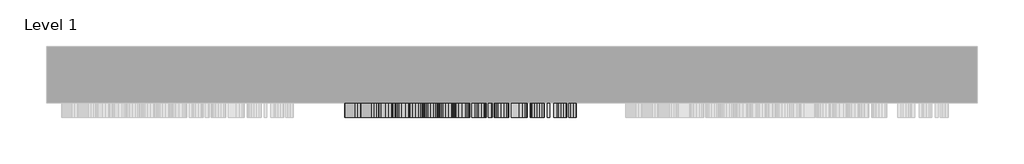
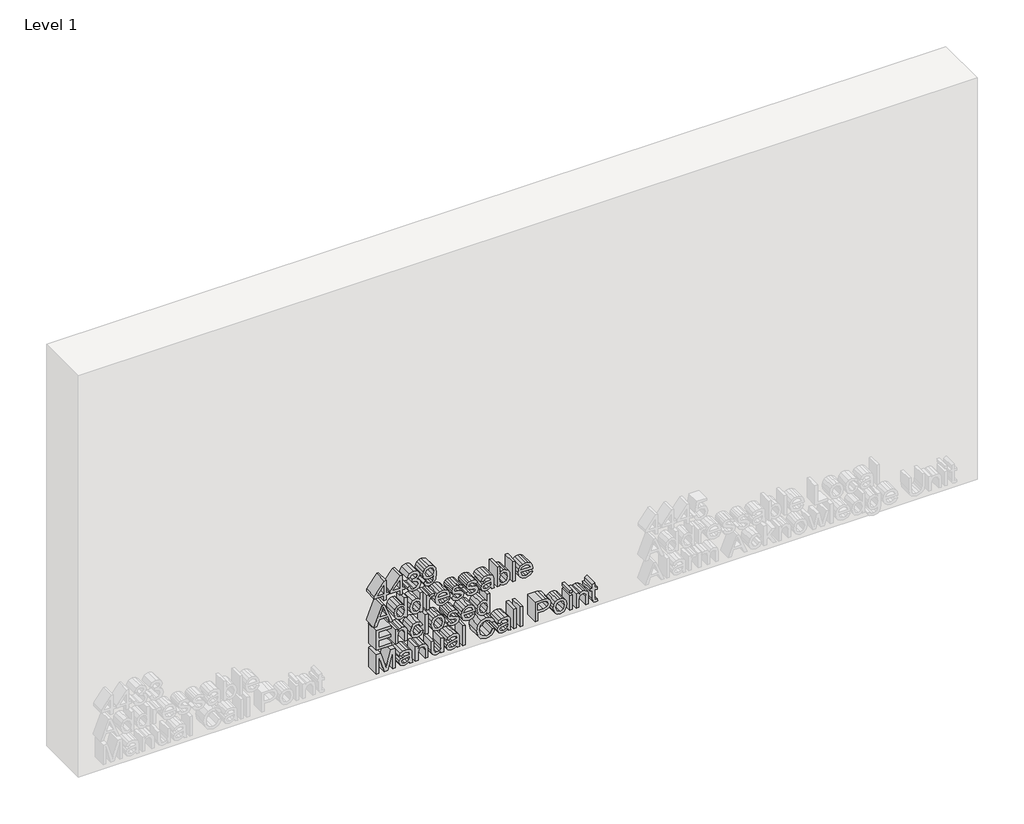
# One storey, part 2 of 3: 1 proxy.
"""IFC4 building model written with IfcOpenShell, lengths in millimetres."""

from ifc_helpers import new_model, si_unit, frame, origin, place, context, project, spatial, polyline, outline, extrude, element, save

model = new_model("IFC4")

# Units and contexts
model_context = context("Model", 3, world=origin())
ifc_project = project(units=[si_unit("LENGTHUNIT", "METRE", prefix="MILLI")], contexts=[model_context])

# Site, building, storey
site = spatial("IfcSite", under=ifc_project)
building = spatial("IfcBuilding", under=site)
storey = spatial("IfcBuildingStorey", under=building, Name="Level 1", Elevation=0.0)

# Proxy
placement = place(None, origin())
element("IfcBuildingElementProxy", 1, Name="75 mm Arial", ObjectType="75 mm Arial", at=placement, inside=storey, context=model_context, shape_type="SweptSolid", body=[
    extrude(outline(polyline([(331.1805104, -3256.778732), (331.1805104, -3247.3609529), (348.8388462, -3247.3609529), (348.8388462, -3237.9431738), (358.2566253, -3237.9431738), (358.2566253, -3247.3609529), (405.3455207, -3247.3609529), (405.3455207, -3254.4242872), (358.2566253, -3290.9181811), (348.8388462, -3290.9181811), (348.8388462, -3256.778732), (331.1805104, -3256.778732)]), holes=[polyline([(358.2566253, -3256.778732), (358.2566253, -3279.3298983), (387.3560911, -3256.778732), (358.2566253, -3256.778732)])]), frame((0.0, 3097.8550077, 0.0), z_axis=(0.0, 1.0, 0.0), x_axis=(0.0, 0.0, 1.0)), (0.0, 0.0, 1.0), 50.0),
    extrude(outline(polyline([(331.1805104, -3199.0948352), (331.1805104, -3189.6770561), (348.8388462, -3189.6770561), (348.8388462, -3180.259277), (358.2566253, -3180.259277), (358.2566253, -3189.6770561), (405.3455207, -3189.6770561), (405.3455207, -3196.7403904), (358.2566253, -3233.2342843), (348.8388462, -3233.2342843), (348.8388462, -3199.0948352), (331.1805104, -3199.0948352)]), holes=[polyline([(358.2566253, -3199.0948352), (358.2566253, -3221.6460015), (387.3560911, -3199.0948352), (358.2566253, -3199.0948352)])]), frame((0.0, 3097.8550077, 0.0), z_axis=(0.0, 1.0, 0.0), x_axis=(0.0, 0.0, 1.0)), (0.0, 0.0, 1.0), 50.0),
    extrude(outline(polyline([(351.193291, -3172.0187203), (342.6814213, -3169.6872682), (335.9077941, -3164.5323217), (331.4794145, -3157.1194995), (330.003288, -3148.0144201), (331.7323334, -3137.948249), (336.9194696, -3129.7858673), (344.5898091, -3124.3780019), (353.7684649, -3122.5753802), (366.0189354, -3126.1806237), (372.4568703, -3136.4445314), (378.6924701, -3128.7190095), (387.3744852, -3126.1070473), (396.8750377, -3128.8569652), (403.938372, -3136.8032163), (406.522743, -3148.1615729), (401.2804246, -3163.1343701), (386.5099625, -3170.8414979), (385.3327401, -3161.4237188), (394.161908, -3156.8067998), (397.104964, -3147.8304791), (394.1894991, -3138.964523), (386.8226622, -3135.5248264), (378.5085291, -3140.2705041), (375.914961, -3152.4657923), (366.497182, -3153.5142559), (367.5272515, -3146.9107741), (363.6736876, -3136.2054081), (353.9340118, -3131.9931592), (343.5965278, -3136.2421963), (339.4210671, -3147.6833263), (342.4560936, -3157.404608), (352.3705133, -3162.6009412), (351.193291, -3172.0187203)])), frame((0.0, 3097.8550077, 0.0), z_axis=(0.0, 1.0, 0.0), x_axis=(0.0, 0.0, 1.0)), (0.0, 0.0, 1.0), 50.0),
    extrude(outline(polyline([(350.0160686, -3113.1576011), (335.2548035, -3106.4069665), (330.003288, -3091.93081), (334.4546602, -3077.3902741), (347.4133035, -3068.0368744), (370.2863665, -3064.8914833), (391.3660048, -3068.0460714), (402.5864057, -3077.2799095), (406.522743, -3090.6984053), (404.7982962, -3099.998922), (399.6249556, -3107.5933859), (391.6235222, -3112.6494641), (381.4147969, -3114.3348235), (371.5325668, -3112.727639), (363.7748552, -3107.9060856), (358.753266, -3100.7576786), (357.0794029, -3092.1699333), (359.8201238, -3081.8416462), (366.9570345, -3074.3092624), (365.1176245, -3074.2540801), (354.1915292, -3075.6152435), (346.0061548, -3078.6962552), (341.2144918, -3083.8649972), (339.4210671, -3091.4893516), (342.2077732, -3099.5091791), (351.193291, -3103.739822), (350.0160686, -3113.1576011)]), holes=[polyline([(381.6355261, -3074.3092624), (370.5162928, -3078.5674965), (366.497182, -3089.4292124), (370.5162928, -3100.7415837), (380.9549444, -3104.9170444), (392.6076066, -3100.5024604), (397.104964, -3089.171695), (392.9295033, -3078.3743584), (381.6355261, -3074.3092624)])]), frame((0.0, 3097.8550077, 0.0), z_axis=(0.0, 1.0, 0.0), x_axis=(0.0, 0.0, 1.0)), (0.0, 0.0, 1.0), 50.0),
    extrude(outline(polyline([(239.699397, -3292.6288324), (239.699397, -3282.6776245), (263.2438447, -3274.0691858), (263.2438447, -3243.0383395), (239.699397, -3234.4115067), (239.699397, -3224.4602987), (315.0416297, -3254.5346518), (315.0416297, -3262.5544793), (239.699397, -3292.6288324)]), holes=[polyline([(272.6616238, -3270.611095), (292.803163, -3263.235061), (305.6238506, -3258.5445656), (291.1844823, -3253.2654589), (272.6616238, -3246.4780361), (272.6616238, -3270.611095)])]), frame((0.0, 3097.8550077, 0.0), z_axis=(0.0, 1.0, 0.0), x_axis=(0.0, 0.0, 1.0)), (0.0, 0.0, 1.0), 50.0),
    extrude(outline(polyline([(239.699397, -3181.4364994), (239.699397, -3172.0187203), (315.0416297, -3172.0187203), (315.0416297, -3181.4364994), (286.9722334, -3181.4364994), (293.6400946, -3187.635311), (296.2060715, -3196.3173261), (292.619222, -3208.3378703), (282.3001321, -3216.4128801), (267.3089408, -3219.1076157), (252.3269465, -3216.1829538), (242.1642064, -3207.9423971), (238.5221747, -3196.2805379), (241.0375678, -3187.6675007), (248.5837472, -3181.4364994), (239.699397, -3181.4364994)]), holes=[polyline([(267.345729, -3209.6898366), (282.106994, -3205.7167111), (286.7882924, -3195.8022913), (281.913856, -3185.5843689), (266.6283591, -3181.4364994), (252.5476757, -3185.5107925), (247.9399537, -3195.4160152), (252.7684049, -3205.4407996), (267.345729, -3209.6898366)])]), frame((0.0, 3097.8550077, 0.0), z_axis=(0.0, 1.0, 0.0), x_axis=(0.0, 0.0, 1.0)), (0.0, 0.0, 1.0), 50.0),
    extrude(outline(polyline([(239.699397, -3123.7526025), (239.699397, -3114.3348235), (315.0416297, -3114.3348235), (315.0416297, -3123.7526025), (286.9722334, -3123.7526025), (293.6400946, -3129.9514142), (296.2060715, -3138.6334292), (292.619222, -3150.6539734), (282.3001321, -3158.7289832), (267.3089408, -3161.4237188), (252.3269465, -3158.499057), (242.1642064, -3150.2585003), (238.5221747, -3138.596641), (241.0375678, -3129.9836038), (248.5837472, -3123.7526025), (239.699397, -3123.7526025)]), holes=[polyline([(267.345729, -3152.0059398), (282.106994, -3148.0328142), (286.7882924, -3138.1183945), (281.913856, -3127.900472), (266.6283591, -3123.7526025), (252.5476757, -3127.8268956), (247.9399537, -3137.7321184), (252.7684049, -3147.7569027), (267.345729, -3152.0059398)])]), frame((0.0, 3097.8550077, 0.0), z_axis=(0.0, 1.0, 0.0), x_axis=(0.0, 0.0, 1.0)), (0.0, 0.0, 1.0), 50.0),
    extrude(outline(polyline([(239.699397, -3100.2081548), (239.699397, -3090.7903758), (268.7804688, -3090.7903758), (279.7801404, -3089.2636655), (284.9304883, -3085.8699541), (286.7882924, -3080.5448622), (284.8569119, -3073.9229863), (293.2998037, -3070.7775952), (296.2060715, -3080.2321625), (294.3850556, -3086.1182744), (286.8434747, -3091.9675982), (295.0288491, -3091.9675982), (295.0288491, -3100.2081548), (239.699397, -3100.2081548)])), frame((0.0, 3097.8550077, 0.0), z_axis=(0.0, 1.0, 0.0), x_axis=(0.0, 0.0, 1.0)), (0.0, 0.0, 1.0), 50.0),
    extrude(outline(polyline([(256.1805104, -3026.1535092), (249.9081224, -3032.2235621), (247.9399537, -3041.4574002), (252.1889908, -3053.588309), (264.4210671, -3059.0053714), (264.4210671, -3016.6805478), (266.9594529, -3016.6253655), (279.3064923, -3018.4118925), (288.5357319, -3023.7714733), (294.2884866, -3031.9453514), (296.2060715, -3042.1747701), (294.2838881, -3052.7329834), (288.5173378, -3061.1206929), (279.2697041, -3066.5975361), (266.9042706, -3068.4231505), (254.941208, -3066.6159302), (245.9809821, -3061.1942693), (240.3868765, -3052.6915966), (238.5221747, -3041.6413412), (242.8447881, -3025.555701), (255.003288, -3016.9196711), (256.1805104, -3026.1535092)]), holes=[polyline([(273.8388462, -3059.0053714), (283.2658223, -3053.8090382), (286.7882924, -3042.2115583), (282.3737085, -3029.8139351), (273.8388462, -3026.0431446), (273.8388462, -3059.0053714)])]), frame((0.0, 3097.8550077, 0.0), z_axis=(0.0, 1.0, 0.0), x_axis=(0.0, 0.0, 1.0)), (0.0, 0.0, 1.0), 50.0),
    extrude(outline(polyline([(256.1805104, -3010.7392536), (242.9735468, -3003.5287665), (238.5221747, -2987.1028354), (240.8306342, -2975.4409762), (247.3697366, -2967.5591044), (256.3828455, -2964.8275806), (264.5682199, -2967.1544342), (269.5898091, -2973.5739751), (274.0227872, -2987.397141), (276.0277441, -2995.508939), (278.1062773, -2999.0222121), (280.8469982, -3000.1442522), (285.0040647, -2997.4403195), (286.7882924, -2988.4272106), (284.9212913, -2980.1406687), (279.7249581, -2976.5998045), (280.9021805, -2967.1820254), (289.3542693, -2970.4193869), (294.3574645, -2977.7034505), (296.2060715, -2989.1629746), (295.0564403, -2997.2655755), (292.2697342, -3003.252855), (286.9078541, -3007.8697741), (279.890505, -3009.5620312), (272.2937418, -3007.4559068), (266.9134676, -3001.2662922), (262.3057456, -2987.0844413), (259.6202071, -2977.3907508), (255.3895641, -2974.2453597), (250.1656398, -2977.3723567), (247.9399537, -2986.9740767), (250.3679749, -2996.9620729), (257.3577328, -3001.3214745), (256.1805104, -3010.7392536)])), frame((0.0, 3097.8550077, 0.0), z_axis=(0.0, 1.0, 0.0), x_axis=(0.0, 0.0, 1.0)), (0.0, 0.0, 1.0), 50.0),
    extrude(outline(polyline([(256.1805104, -2957.7642463), (242.9735468, -2950.5537592), (238.5221747, -2934.1278281), (240.8306342, -2922.4659689), (247.3697366, -2914.5840971), (256.3828455, -2911.8525733), (264.5682199, -2914.1794269), (269.5898091, -2920.5989678), (274.0227872, -2934.4221337), (276.0277441, -2942.5339317), (278.1062773, -2946.0472048), (280.8469982, -2947.1692449), (285.0040647, -2944.4653122), (286.7882924, -2935.4522033), (284.9212913, -2927.1656614), (279.7249581, -2923.6247972), (280.9021805, -2914.2070181), (289.3542693, -2917.4443796), (294.3574645, -2924.7284431), (296.2060715, -2936.1879673), (295.0564403, -2944.2905682), (292.2697342, -2950.2778477), (286.9078541, -2954.8947668), (279.890505, -2956.5870239), (272.2937418, -2954.4808995), (266.9134676, -2948.2912849), (262.3057456, -2934.109434), (259.6202071, -2924.4157435), (255.3895641, -2921.2703524), (250.1656398, -2924.3973494), (247.9399537, -2933.9990694), (250.3679749, -2943.9870656), (257.3577328, -2948.3464672), (256.1805104, -2957.7642463)])), frame((0.0, 3097.8550077, 0.0), z_axis=(0.0, 1.0, 0.0), x_axis=(0.0, 0.0, 1.0)), (0.0, 0.0, 1.0), 50.0),
    extrude(outline(polyline([(246.7627313, -2865.9409003), (239.699397, -2863.5864555), (239.699397, -2854.1686765), (247.618057, -2856.0448746), (263.9796087, -2856.5231212), (275.6966503, -2856.5231212), (283.937207, -2856.9829737), (290.3291566, -2859.8708474), (294.5322084, -2866.3179794), (296.2060715, -2877.7315183), (294.3114792, -2890.1567327), (288.922008, -2898.3605011), (279.7249581, -2902.4347942), (278.5477357, -2893.0170152), (284.9764736, -2888.4736725), (286.7882924, -2878.9455288), (284.0659657, -2868.5344684), (277.112996, -2865.9409003), (275.0160686, -2865.9960826), (271.778707, -2882.3300432), (270.3623613, -2890.4786294), (267.2721526, -2897.0729142), (261.8642873, -2901.8093948), (254.4146768, -2903.6120166), (242.9919409, -2898.8387477), (238.5221747, -2885.1627346), (240.3799787, -2875.0735708), (246.7627313, -2865.9409003)]), holes=[polyline([(265.5982895, -2865.9409003), (262.931145, -2865.9960826), (255.6470815, -2867.4860047), (250.193231, -2873.629634), (247.9399537, -2883.1577777), (249.9816988, -2891.3891373), (255.0768644, -2894.1942375), (258.7005021, -2892.9066506), (261.1837056, -2889.2370277), (262.7104158, -2881.1344267), (265.5982895, -2865.9409003)])]), frame((0.0, 3097.8550077, 0.0), z_axis=(0.0, 1.0, 0.0), x_axis=(0.0, 0.0, 1.0)), (0.0, 0.0, 1.0), 50.0),
    extrude(outline(polyline([(239.699397, -2834.1558959), (248.5101708, -2834.1558959), (241.0191737, -2827.7961359), (238.5221747, -2819.422222), (240.4581537, -2810.6459372), (246.2660907, -2803.2262172), (255.6194904, -2798.170139), (268.1918576, -2796.4847796), (279.4214555, -2798.1126575), (288.3885791, -2802.6100148), (294.1551294, -2809.9308666), (296.2060715, -2819.3670397), (293.9298017, -2827.5616112), (287.1009921, -2834.1558959), (315.0416297, -2834.1558959), (315.0416297, -2843.573675), (239.699397, -2843.573675), (239.699397, -2834.1558959)]), holes=[polyline([(267.7503992, -2834.1558959), (281.8954619, -2829.9068589), (286.7882924, -2819.8268922), (282.0610088, -2809.9768518), (267.4193054, -2805.9025587), (252.8327843, -2810.1515958), (247.9399537, -2820.2315624), (249.6000212, -2826.6465047), (254.5802237, -2831.580722), (267.7503992, -2834.1558959)])]), frame((0.0, 3097.8550077, 0.0), z_axis=(0.0, 1.0, 0.0), x_axis=(0.0, 0.0, 1.0)), (0.0, 0.0, 1.0), 50.0),
    extrude(outline(polyline([(-2776.4719991, 3097.8550077), (-2785.8897782, 3097.8550077), (-2785.8897782, 3147.8550077), (-2776.4719991, 3147.8550077), (-2776.4719991, 3097.8550077)])), frame((0.0, 0.0, 239.699397), z_axis=(0.0, 0.0, 1.0), x_axis=(1.0, 0.0, 0.0)), (0.0, 0.0, 1.0), 75.3422326),
    extrude(outline(polyline([(256.1805104, -2723.6073564), (249.9081224, -2729.6774093), (247.9399537, -2738.9112474), (252.1889908, -2751.0421562), (264.4210671, -2756.4592186), (264.4210671, -2714.134395), (266.9594529, -2714.0792127), (279.3064923, -2715.8657396), (288.5357319, -2721.2253205), (294.2884866, -2729.3991985), (296.2060715, -2739.6286173), (294.2838881, -2750.1868305), (288.5173378, -2758.57454), (279.2697041, -2764.0513832), (266.9042706, -2765.8769976), (254.941208, -2764.0697773), (245.9809821, -2758.6481164), (240.3868765, -2750.1454438), (238.5221747, -2739.0951884), (242.8447881, -2723.0095481), (255.003288, -2714.3735183), (256.1805104, -2723.6073564)]), holes=[polyline([(273.8388462, -2756.4592186), (283.2658223, -2751.2628854), (286.7882924, -2739.6654055), (282.3737085, -2727.2677822), (273.8388462, -2723.4969918), (273.8388462, -2756.4592186)])]), frame((0.0, 3097.8550077, 0.0), z_axis=(0.0, 1.0, 0.0), x_axis=(0.0, 0.0, 1.0)), (0.0, 0.0, 1.0), 50.0),
    extrude(outline(polyline([(148.2182837, -3283.8548468), (148.2182837, -3228.5253948), (157.6360627, -3228.5253948), (157.6360627, -3274.4370678), (182.3577328, -3274.4370678), (182.3577328, -3232.0570619), (191.7755119, -3232.0570619), (191.7755119, -3274.4370678), (214.1427372, -3274.4370678), (214.1427372, -3229.7026171), (223.5605163, -3229.7026171), (223.5605163, -3283.8548468), (148.2182837, -3283.8548468)])), frame((0.0, 3097.8550077, 0.0), z_axis=(0.0, 1.0, 0.0), x_axis=(0.0, 0.0, 1.0)), (0.0, 0.0, 1.0), 50.0),
    extrude(outline(polyline([(148.2182837, -3215.5759485), (148.2182837, -3206.1581695), (177.5752669, -3206.1581695), (191.609965, -3201.8631472), (195.307179, -3191.6452247), (193.6609071, -3185.1796987), (189.2555202, -3181.3445289), (180.922993, -3180.259277), (148.2182837, -3180.259277), (148.2182837, -3170.8414979), (182.1921859, -3170.8414979), (191.2972653, -3171.3381386), (198.2226439, -3174.1616329), (202.9315334, -3180.2316858), (204.7249581, -3189.1252331), (202.499272, -3198.9568794), (195.8222138, -3206.1581695), (203.5477357, -3206.1581695), (203.5477357, -3215.5759485), (148.2182837, -3215.5759485)])), frame((0.0, 3097.8550077, 0.0), z_axis=(0.0, 1.0, 0.0), x_axis=(0.0, 0.0, 1.0)), (0.0, 0.0, 1.0), 50.0),
    extrude(outline(polyline([(168.2310642, -3122.5753802), (159.346714, -3127.0911316), (156.4588403, -3135.9662848), (161.0849564, -3146.7176361), (175.938192, -3150.8287174), (190.6534718, -3146.6256656), (195.307179, -3135.7087674), (192.9435372, -3128.1212012), (185.8894, -3123.7526025), (187.0666223, -3114.3348235), (200.1264332, -3121.4625371), (204.7249581, -3135.7823438), (201.377232, -3148.5938343), (191.3248564, -3157.3678198), (175.6806746, -3160.2464965), (163.455496, -3158.5611371), (154.4446864, -3153.5050589), (148.8919676, -3145.6714717), (147.0410613, -3135.6535851), (152.3477591, -3120.7175761), (167.0538418, -3113.1576011), (168.2310642, -3122.5753802)])), frame((0.0, 3097.8550077, 0.0), z_axis=(0.0, 1.0, 0.0), x_axis=(0.0, 0.0, 1.0)), (0.0, 0.0, 1.0), 50.0),
    extrude(outline(polyline([(-3095.4992653, 3097.8550077), (-3104.9170444, 3097.8550077), (-3104.9170444, 3147.8550077), (-3095.4992653, 3147.8550077), (-3095.4992653, 3097.8550077)])), frame((0.0, 0.0, 148.2182837), z_axis=(0.0, 0.0, 1.0), x_axis=(1.0, 0.0, 0.0)), (0.0, 0.0, 1.0), 75.3422326),
    extrude(outline(polyline([(175.8830097, -3083.7270415), (163.5405688, -3082.0186894), (154.4722776, -3076.8936334), (148.8988653, -3069.0002653), (147.0410613, -3058.9869773), (150.4163786, -3046.2306691), (159.898537, -3037.3371219), (176.6555619, -3034.2837013), (188.3840997, -3036.0104474), (197.2661507, -3041.1906858), (202.8602563, -3049.0932509), (204.7249581, -3058.9869773), (203.1936493, -3068.0276773), (198.5997229, -3075.5784553), (189.2233305, -3081.6898949), (175.8830097, -3083.7270415)]), holes=[polyline([(175.9014038, -3074.3092624), (190.4787279, -3069.9498607), (195.307179, -3058.9869773), (190.4603338, -3048.0884732), (176.1957094, -3043.7014804), (161.3332768, -3048.060882), (156.4588403, -3058.9869773), (161.3056856, -3069.9498607), (175.9014038, -3074.3092624)])]), frame((0.0, 3097.8550077, 0.0), z_axis=(0.0, 1.0, 0.0), x_axis=(0.0, 0.0, 1.0)), (0.0, 0.0, 1.0), 50.0),
    extrude(outline(polyline([(164.699397, -3027.220367), (151.4924334, -3020.0098799), (147.0410613, -3003.5839488), (149.3495208, -2991.9220896), (155.8886233, -2984.0402178), (164.9017321, -2981.308694), (173.0871065, -2983.6355476), (178.1086958, -2990.0550884), (182.5416738, -3003.8782544), (184.5466307, -3011.9900524), (186.625164, -3015.5033255), (189.3658848, -3016.6253655), (193.5229514, -3013.9214329), (195.307179, -3004.908324), (193.4401779, -2996.6217821), (188.2438447, -2993.0809179), (189.4210671, -2983.6631388), (197.873156, -2986.9005003), (202.8763511, -2994.1845638), (204.7249581, -3005.644088), (203.5753269, -3013.7466889), (200.7886208, -3019.7339684), (195.4267407, -3024.3508874), (188.4093916, -3026.0431446), (180.8126284, -3023.9370202), (175.4323543, -3017.7474056), (170.8246323, -3003.5655547), (168.1390937, -2993.8718641), (163.9084508, -2990.7264731), (158.6845264, -2993.85347), (156.4588403, -3003.4551901), (158.8868615, -3013.4431863), (165.8766194, -3017.8025879), (164.699397, -3027.220367)])), frame((0.0, 3097.8550077, 0.0), z_axis=(0.0, 1.0, 0.0), x_axis=(0.0, 0.0, 1.0)), (0.0, 0.0, 1.0), 50.0),
    extrude(outline(polyline([(164.699397, -2931.9757185), (158.427009, -2938.0457714), (156.4588403, -2947.2796095), (160.7078774, -2959.4105182), (172.9399537, -2964.8275806), (172.9399537, -2922.5027571), (175.4783395, -2922.4475748), (187.825379, -2924.2341017), (197.0546185, -2929.5936825), (202.8073732, -2937.7675606), (204.7249581, -2947.9969793), (202.8027747, -2958.5551926), (197.0362244, -2966.9429021), (187.7885908, -2972.4197453), (175.4231572, -2974.2453597), (163.4600946, -2972.4381394), (154.4998687, -2967.0164785), (148.9057631, -2958.5138059), (147.0410613, -2947.4635505), (151.3636747, -2931.3779102), (163.5221747, -2922.7418804), (164.699397, -2931.9757185)]), holes=[polyline([(182.3577328, -2964.8275806), (191.7847089, -2959.6312474), (195.307179, -2948.0337675), (190.8925951, -2935.6361443), (182.3577328, -2931.8653539), (182.3577328, -2964.8275806)])]), frame((0.0, 3097.8550077, 0.0), z_axis=(0.0, 1.0, 0.0), x_axis=(0.0, 0.0, 1.0)), (0.0, 0.0, 1.0), 50.0),
    extrude(outline(polyline([(148.2182837, -2878.8903465), (148.2182837, -2869.4725675), (223.5605163, -2869.4725675), (223.5605163, -2878.8903465), (195.49112, -2878.8903465), (202.1589812, -2885.0891582), (204.7249581, -2893.7711733), (201.1381087, -2905.7917174), (190.8190187, -2913.8667272), (175.8278274, -2916.5614629), (160.8458331, -2913.636801), (150.683093, -2905.3962443), (147.0410613, -2893.7343851), (149.5564544, -2885.1213478), (157.1026338, -2878.8903465), (148.2182837, -2878.8903465)]), holes=[polyline([(175.8646156, -2907.1436838), (190.6258807, -2903.1705582), (195.307179, -2893.2561385), (190.4327426, -2883.038216), (175.1472457, -2878.8903465), (161.0665623, -2882.9646396), (156.4588403, -2892.8698624), (161.2872915, -2902.8946467), (175.8646156, -2907.1436838)])]), frame((0.0, 3097.8550077, 0.0), z_axis=(0.0, 1.0, 0.0), x_axis=(0.0, 0.0, 1.0)), (0.0, 0.0, 1.0), 50.0),
    extrude(outline(polyline([(56.7371703, -3283.8548468), (56.7371703, -3274.4370678), (122.6616238, -3274.4370678), (56.7371703, -3255.5095391), (56.7371703, -3242.7440339), (122.6616238, -3223.8165052), (56.7371703, -3223.8165052), (56.7371703, -3214.3987262), (132.0794029, -3214.3987262), (132.0794029, -3230.603928), (79.8953419, -3245.7606662), (67.8839947, -3249.1267865), (78.9756369, -3252.2353894), (132.0794029, -3267.649645), (132.0794029, -3283.8548468), (56.7371703, -3283.8548468)])), frame((0.0, 3097.8550077, 0.0), z_axis=(0.0, 1.0, 0.0), x_axis=(0.0, 0.0, 1.0)), (0.0, 0.0, 1.0), 50.0),
    extrude(outline(polyline([(63.8005046, -3163.7781636), (56.7371703, -3161.4237188), (56.7371703, -3152.0059398), (64.6558302, -3153.8821379), (81.017382, -3154.3603845), (92.7344235, -3154.3603845), (100.9749802, -3154.820237), (107.3669299, -3157.7081107), (111.5699817, -3164.1552427), (113.2438447, -3175.5687816), (111.3492525, -3187.9939959), (105.9597812, -3196.1977644), (96.7627313, -3200.2720575), (95.585509, -3190.8542785), (102.0142468, -3186.3109358), (103.8260657, -3176.7827921), (101.1037389, -3166.3717317), (94.1507692, -3163.7781636), (92.0538418, -3163.8333459), (88.8164803, -3180.1673065), (87.4001346, -3188.3158927), (84.3099258, -3194.9101775), (78.9020605, -3199.6466581), (71.4524501, -3201.4492799), (60.0297141, -3196.676011), (55.5599479, -3182.9999979), (57.417752, -3172.9108341), (63.8005046, -3163.7781636)]), holes=[polyline([(82.6360627, -3163.7781636), (79.9689183, -3163.8333459), (72.6848548, -3165.323268), (67.2310042, -3171.4668973), (64.977727, -3180.995041), (67.019472, -3189.2264006), (72.1146377, -3192.0315008), (75.7382753, -3190.7439139), (78.2214788, -3187.074291), (79.7481891, -3178.97169), (82.6360627, -3163.7781636)])]), frame((0.0, 3097.8550077, 0.0), z_axis=(0.0, 1.0, 0.0), x_axis=(0.0, 0.0, 1.0)), (0.0, 0.0, 1.0), 50.0),
    extrude(outline(polyline([(56.7371703, -3141.4109383), (56.7371703, -3131.9931592), (86.0941535, -3131.9931592), (100.1288516, -3127.6981369), (103.8260657, -3117.4802145), (102.1797937, -3111.0146885), (97.7744068, -3107.1795187), (89.4418796, -3106.0942668), (56.7371703, -3106.0942668), (56.7371703, -3096.6764877), (90.7110725, -3096.6764877), (99.8161519, -3097.1731284), (106.7415305, -3099.9966227), (111.45042, -3106.0666756), (113.2438447, -3114.9602229), (111.0181587, -3124.7918692), (104.3411004, -3131.9931592), (112.0666223, -3131.9931592), (112.0666223, -3141.4109383), (56.7371703, -3141.4109383)])), frame((0.0, 3097.8550077, 0.0), z_axis=(0.0, 1.0, 0.0), x_axis=(0.0, 0.0, 1.0)), (0.0, 0.0, 1.0), 50.0),
    extrude(outline(polyline([(56.7371703, -3048.4103699), (56.7371703, -3038.9925909), (112.0666223, -3038.9925909), (112.0666223, -3048.4103699), (83.2798562, -3048.4103699), (72.7860223, -3049.9370802), (67.0746543, -3055.1334134), (64.977727, -3062.996891), (67.0286691, -3070.0142401), (72.6664607, -3073.7390453), (82.2681807, -3074.3092624), (112.0666223, -3074.3092624), (112.0666223, -3083.7270415), (77.8352027, -3083.7270415), (69.0796112, -3083.1752185), (62.1450356, -3080.3701183), (57.4361461, -3074.2632771), (55.5599479, -3065.4065181), (58.2316909, -3055.7864039), (66.2469198, -3048.4103699), (56.7371703, -3048.4103699)])), frame((0.0, 3097.8550077, 0.0), z_axis=(0.0, 1.0, 0.0), x_axis=(0.0, 0.0, 1.0)), (0.0, 0.0, 1.0), 50.0),
    extrude(outline(polyline([(63.8005046, -2990.7264731), (56.7371703, -2988.3720283), (56.7371703, -2978.9542492), (64.6558302, -2980.8304474), (81.017382, -2981.308694), (92.7344235, -2981.308694), (100.9749802, -2981.7685465), (107.3669299, -2984.6564202), (111.5699817, -2991.1035521), (113.2438447, -3002.517091), (111.3492525, -3014.9423054), (105.9597812, -3023.1460739), (96.7627313, -3027.220367), (95.585509, -3017.8025879), (102.0142468, -3013.2592453), (103.8260657, -3003.7311016), (101.1037389, -2993.3200411), (94.1507692, -2990.7264731), (92.0538418, -2990.7816554), (88.8164803, -3007.115616), (87.4001346, -3015.2642022), (84.3099258, -3021.8584869), (78.9020605, -3026.5949676), (71.4524501, -3028.3975894), (60.0297141, -3023.6243205), (55.5599479, -3009.9483073), (57.417752, -2999.8591436), (63.8005046, -2990.7264731)]), holes=[polyline([(82.6360627, -2990.7264731), (79.9689183, -2990.7816554), (72.6848548, -2992.2715775), (67.2310042, -2998.4152068), (64.977727, -3007.9433505), (67.019472, -3016.1747101), (72.1146377, -3018.9798103), (75.7382753, -3017.6922233), (78.2214788, -3014.0226004), (79.7481891, -3005.9199995), (82.6360627, -2990.7264731)])]), frame((0.0, 3097.8550077, 0.0), z_axis=(0.0, 1.0, 0.0), x_axis=(0.0, 0.0, 1.0)), (0.0, 0.0, 1.0), 50.0),
    extrude(outline(polyline([(-2958.9414687, 3097.8550077), (-2968.3592478, 3097.8550077), (-2968.3592478, 3147.8550077), (-2958.9414687, 3147.8550077), (-2958.9414687, 3097.8550077)])), frame((0.0, 0.0, 56.7371703), z_axis=(0.0, 0.0, 1.0), x_axis=(1.0, 0.0, 0.0)), (0.0, 0.0, 1.0), 75.3422326),
    extrude(outline(polyline([(83.5189795, -2861.2320108), (69.6498283, -2869.2242471), (64.977727, -2883.6360243), (68.4082266, -2896.6314558), (78.7733018, -2905.4790178), (94.9968978, -2908.3209062), (108.9948077, -2905.9204761), (119.8105383, -2897.597146), (123.8388462, -2882.8634721), (120.2060115, -2870.1347551), (108.6269257, -2862.4092332), (110.8710059, -2852.9914541), (120.3255731, -2857.1508199), (127.3889074, -2863.6324408), (131.7896958, -2872.1696023), (133.2566253, -2882.4955901), (128.7224797, -2900.5953843), (115.4511367, -2913.278116), (94.9785037, -2917.7386852), (74.8369644, -2913.7931508), (60.5079607, -2902.2968385), (55.5599479, -2882.6979252), (57.1947235, -2871.9373768), (62.0990504, -2862.9794503), (70.1165786, -2856.1598378), (81.0909584, -2851.8142317), (83.5189795, -2861.2320108)])), frame((0.0, 3097.8550077, 0.0), z_axis=(0.0, 1.0, 0.0), x_axis=(0.0, 0.0, 1.0)), (0.0, 0.0, 1.0), 50.0),
    extrude(outline(polyline([(63.8005046, -2804.7253363), (56.7371703, -2802.3708916), (56.7371703, -2792.9531125), (64.6558302, -2794.8293107), (81.017382, -2795.3075572), (92.7344235, -2795.3075572), (100.9749802, -2795.7674097), (107.3669299, -2798.6552834), (111.5699817, -2805.1024154), (113.2438447, -2816.5159543), (111.3492525, -2828.9411687), (105.9597812, -2837.1449371), (96.7627313, -2841.2192302), (95.585509, -2831.8014512), (102.0142468, -2827.2581085), (103.8260657, -2817.7299649), (101.1037389, -2807.3189044), (94.1507692, -2804.7253363), (92.0538418, -2804.7805186), (88.8164803, -2821.1144792), (87.4001346, -2829.2630654), (84.3099258, -2835.8573502), (78.9020605, -2840.5938309), (71.4524501, -2842.3964526), (60.0297141, -2837.6231837), (55.5599479, -2823.9471706), (57.417752, -2813.8580069), (63.8005046, -2804.7253363)]), holes=[polyline([(82.6360627, -2804.7253363), (79.9689183, -2804.7805186), (72.6848548, -2806.2704407), (67.2310042, -2812.41407), (64.977727, -2821.9422137), (67.019472, -2830.1735733), (72.1146377, -2832.9786736), (75.7382753, -2831.6910866), (78.2214788, -2828.0214637), (79.7481891, -2819.9188627), (82.6360627, -2804.7253363)])]), frame((0.0, 3097.8550077, 0.0), z_axis=(0.0, 1.0, 0.0), x_axis=(0.0, 0.0, 1.0)), (0.0, 0.0, 1.0), 50.0),
    extrude(outline(polyline([(-2772.9403319, 3097.8550077), (-2782.358111, 3097.8550077), (-2782.358111, 3147.8550077), (-2772.9403319, 3147.8550077), (-2772.9403319, 3097.8550077)])), frame((0.0, 0.0, 56.7371703), z_axis=(0.0, 0.0, 1.0), x_axis=(1.0, 0.0, 0.0)), (0.0, 0.0, 1.0), 75.3422326),
    extrude(outline(polyline([(-2749.3958842, 3097.8550077), (-2758.8136633, 3097.8550077), (-2758.8136633, 3147.8550077), (-2749.3958842, 3147.8550077), (-2749.3958842, 3097.8550077)])), frame((0.0, 0.0, 56.7371703), z_axis=(0.0, 0.0, 1.0), x_axis=(1.0, 0.0, 0.0)), (0.0, 0.0, 1.0), 75.3422326),
    extrude(outline(polyline([(56.7371703, -2704.6614336), (56.7371703, -2695.2436546), (87.3449523, -2695.2436546), (87.3449523, -2676.0953967), (89.0096183, -2662.7159884), (94.0036164, -2654.215615), (101.402643, -2649.6699731), (110.2823947, -2648.1547592), (120.5554994, -2650.3988393), (127.8395629, -2656.3309365), (131.362033, -2665.4820011), (132.0794029, -2676.7391902), (132.0794029, -2704.6614336), (56.7371703, -2704.6614336)]), holes=[polyline([(96.7627313, -2695.2436546), (122.6616238, -2695.2436546), (122.6616238, -2675.7643029), (122.0178303, -2666.3465238), (117.7503992, -2659.9913624), (109.9513009, -2657.5725383), (100.2208221, -2661.6744225), (96.7627313, -2675.5435737), (96.7627313, -2695.2436546)])]), frame((0.0, 3097.8550077, 0.0), z_axis=(0.0, 1.0, 0.0), x_axis=(0.0, 0.0, 1.0)), (0.0, 0.0, 1.0), 50.0),
    extrude(outline(polyline([(84.4018963, -2638.7369801), (72.0594554, -2637.0286281), (62.9911642, -2631.903572), (57.417752, -2624.010204), (55.5599479, -2613.9969159), (58.9352652, -2601.2406077), (68.4174236, -2592.3470605), (85.1744485, -2589.2936399), (96.9029864, -2591.0203861), (105.7850373, -2596.2006244), (111.3791429, -2604.1031895), (113.2438447, -2613.9969159), (111.7125359, -2623.037616), (107.1186095, -2630.5883939), (97.7422172, -2636.6998335), (84.4018963, -2638.7369801)]), holes=[polyline([(84.4202904, -2629.319201), (98.9976145, -2624.9597994), (103.8260657, -2613.9969159), (98.9792204, -2603.0984118), (84.714596, -2598.711419), (69.8521634, -2603.0708207), (64.977727, -2613.9969159), (69.8245723, -2624.9597994), (84.4202904, -2629.319201)])]), frame((0.0, 3097.8550077, 0.0), z_axis=(0.0, 1.0, 0.0), x_axis=(0.0, 0.0, 1.0)), (0.0, 0.0, 1.0), 50.0),
    extrude(outline(polyline([(-2569.2808594, 3097.8550077), (-2578.6986385, 3097.8550077), (-2578.6986385, 3147.8550077), (-2569.2808594, 3147.8550077), (-2569.2808594, 3097.8550077)])), frame((0.0, 0.0, 122.6616238), z_axis=(0.0, 0.0, 1.0), x_axis=(1.0, 0.0, 0.0)), (0.0, 0.0, 1.0), 9.4177791),
    extrude(outline(polyline([(-2569.2808594, 3097.8550077), (-2578.6986385, 3097.8550077), (-2578.6986385, 3147.8550077), (-2569.2808594, 3147.8550077), (-2569.2808594, 3097.8550077)])), frame((0.0, 0.0, 56.7371703), z_axis=(0.0, 0.0, 1.0), x_axis=(1.0, 0.0, 0.0)), (0.0, 0.0, 1.0), 55.3294521),
    extrude(outline(polyline([(56.7371703, -2555.1541908), (56.7371703, -2545.7364117), (86.0941535, -2545.7364117), (100.1288516, -2541.4413894), (103.8260657, -2531.223467), (102.1797937, -2524.7579409), (97.7744068, -2520.9227711), (89.4418796, -2519.8375193), (56.7371703, -2519.8375193), (56.7371703, -2510.4197402), (90.7110725, -2510.4197402), (99.8161519, -2510.9163809), (106.7415305, -2513.7398752), (111.45042, -2519.8099281), (113.2438447, -2528.7034753), (111.0181587, -2538.5351217), (104.3411004, -2545.7364117), (112.0666223, -2545.7364117), (112.0666223, -2555.1541908), (56.7371703, -2555.1541908)])), frame((0.0, 3097.8550077, 0.0), z_axis=(0.0, 1.0, 0.0), x_axis=(0.0, 0.0, 1.0)), (0.0, 0.0, 1.0), 50.0),
    extrude(outline(polyline([(64.5914509, -2477.4575134), (64.977727, -2481.5593977), (65.6123234, -2484.7691681), (67.3321717, -2486.3786518), (72.1882141, -2486.8752925), (102.6488433, -2486.8752925), (102.6488433, -2477.4575134), (112.0666223, -2477.4575134), (112.0666223, -2486.8752925), (131.0493333, -2486.8752925), (125.5127093, -2496.2930716), (112.0666223, -2496.2930716), (112.0666223, -2503.3564059), (102.6488433, -2503.3564059), (102.6488433, -2496.2930716), (71.9123026, -2496.2930716), (61.2253306, -2495.1526374), (57.1234464, -2491.2163), (55.5599479, -2483.3252312), (56.4612588, -2476.280291), (64.5914509, -2477.4575134)])), frame((0.0, 3097.8550077, 0.0), z_axis=(0.0, 1.0, 0.0), x_axis=(0.0, 0.0, 1.0)), (0.0, 0.0, 1.0), 50.0),
])

save(model, "model.ifc")
